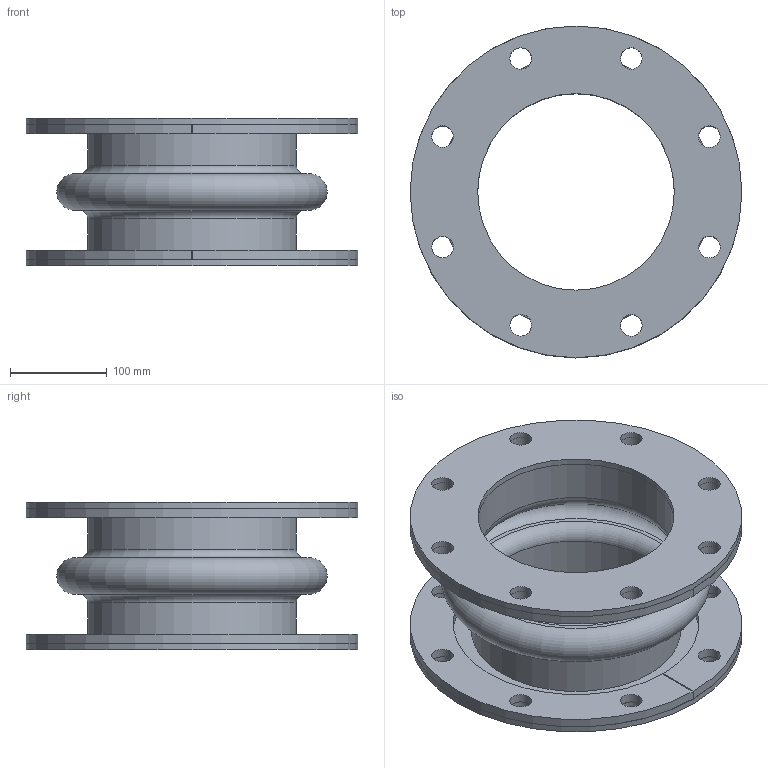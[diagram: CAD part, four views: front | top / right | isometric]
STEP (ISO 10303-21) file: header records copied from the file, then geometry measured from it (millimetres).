
FILE_DESCRIPTION(/* description */ (''),/* implementation_level */ '2;1');
FILE_NAME(/* name */ '8x6.stp',/* time_stamp */ '2026-07-21T14:02:28-05:00',/* author */ ('linda'),/* organization */ (''),/* preprocessor_version */ 'ST-DEVELOPER v20.1',/* originating_system */ 'Autodesk Inventor 2026',/* authorisation */ '');
FILE_SCHEMA (('AUTOMOTIVE_DESIGN { 1 0 10303 214 3 1 1 }'));
Length unit declared in the file: inch
Products named in the file (1): Part13
Bounding box: 342.9 x 342.9 x 152.4 mm (x, y, z)
Volume: 2267111.1 mm3; surface area: 707430.2 mm2
Topology: 5 solids, 5 shells, 78 faces, 186 edges, 124 vertices
Faces by surface type: cylinder 48, plane 24, torus 6
Full cylindrical faces by diameter (mm): 22.352 x32, 203.2 x4, 215.9 x2, 342.9 x2
Entity records: 2593 total; most frequent: DIRECTION 458, CARTESIAN_POINT 389, ORIENTED_EDGE 372, AXIS2_PLACEMENT_3D 193, EDGE_CURVE 186, EDGE_LOOP 150, VERTEX_POINT 124, CIRCLE 114
